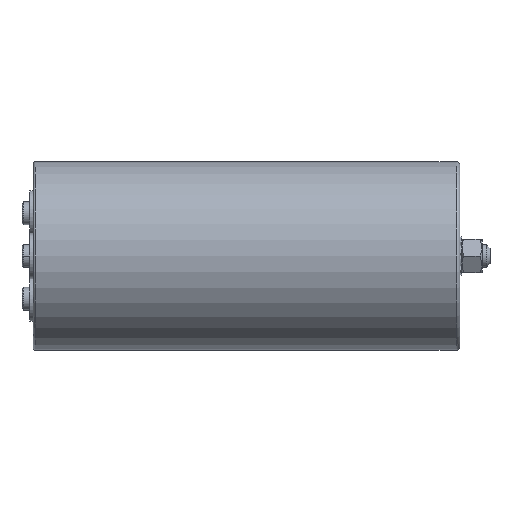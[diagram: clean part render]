
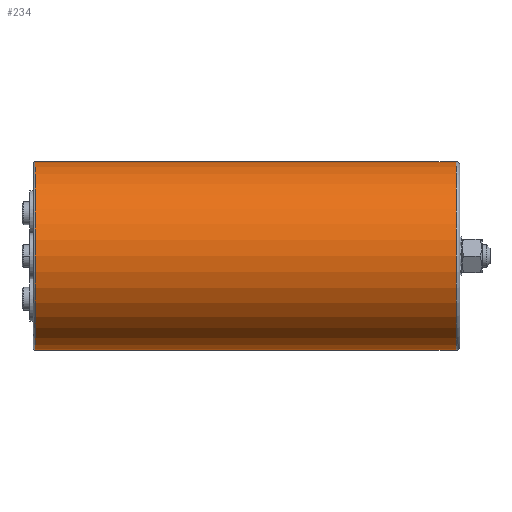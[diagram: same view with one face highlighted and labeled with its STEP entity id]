
A CAD part, left-side view. The second image highlights one B-rep face of the part: STEP entity #234.
In plain terms, the highlighted cylindrical face has radius 50 mm (diameter 100 mm), a partial arc.
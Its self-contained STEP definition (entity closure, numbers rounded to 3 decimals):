
#56 = VECTOR ( 'NONE', #4375, 1000. ) ;
#132 = CARTESIAN_POINT ( 'NONE',  ( 0., 2., -50. ) ) ;
#234 = ADVANCED_FACE ( 'NONE', ( #2030 ), #2420, .T. ) ;
#250 = LINE ( 'NONE', #3584, #2077 ) ;
#474 = ORIENTED_EDGE ( 'NONE', *, *, #908, .F. ) ;
#590 = ORIENTED_EDGE ( 'NONE', *, *, #2779, .T. ) ;
#676 = CIRCLE ( 'NONE', #4230, 50. ) ;
#908 = EDGE_CURVE ( 'NONE', #2908, #1460, #1408, .T. ) ;
#976 = CARTESIAN_POINT ( 'NONE',  ( 0., 0., 0. ) ) ;
#1030 = CIRCLE ( 'NONE', #2876, 50. ) ;
#1231 = DIRECTION ( 'NONE',  ( 0., 1., 0. ) ) ;
#1258 = EDGE_CURVE ( 'NONE', #2786, #1460, #1030, .T. ) ;
#1386 = DIRECTION ( 'NONE',  ( 0., -1., 0. ) ) ;
#1408 = LINE ( 'NONE', #2532, #56 ) ;
#1460 = VERTEX_POINT ( 'NONE', #3591 ) ;
#1672 = DIRECTION ( 'NONE',  ( 0., 0., -1. ) ) ;
#1702 = DIRECTION ( 'NONE',  ( 0., -1., 0. ) ) ;
#1947 = DIRECTION ( 'NONE',  ( 0., -1., 0. ) ) ;
#2030 = FACE_OUTER_BOUND ( 'NONE', #4631, .T. ) ;
#2077 = VECTOR ( 'NONE', #1702, 1000. ) ;
#2420 = CYLINDRICAL_SURFACE ( 'NONE', #3965, 50. ) ;
#2532 = CARTESIAN_POINT ( 'NONE',  ( 0., 0., 50. ) ) ;
#2779 = EDGE_CURVE ( 'NONE', #2908, #4420, #676, .T. ) ;
#2786 = VERTEX_POINT ( 'NONE', #132 ) ;
#2876 = AXIS2_PLACEMENT_3D ( 'NONE', #3811, #1231, #4580 ) ;
#2908 = VERTEX_POINT ( 'NONE', #4734 ) ;
#3060 = DIRECTION ( 'NONE',  ( 0., 0., 1. ) ) ;
#3125 = ORIENTED_EDGE ( 'NONE', *, *, #3925, .T. ) ;
#3305 = ORIENTED_EDGE ( 'NONE', *, *, #1258, .T. ) ;
#3584 = CARTESIAN_POINT ( 'NONE',  ( 0., 0., -50. ) ) ;
#3591 = CARTESIAN_POINT ( 'NONE',  ( 0., 2., 50. ) ) ;
#3811 = CARTESIAN_POINT ( 'NONE',  ( 0., 2., 0. ) ) ;
#3925 = EDGE_CURVE ( 'NONE', #4420, #2786, #250, .T. ) ;
#3965 = AXIS2_PLACEMENT_3D ( 'NONE', #976, #1386, #1672 ) ;
#4198 = CARTESIAN_POINT ( 'NONE',  ( 0., 225., 0. ) ) ;
#4230 = AXIS2_PLACEMENT_3D ( 'NONE', #4198, #1947, #3060 ) ;
#4375 = DIRECTION ( 'NONE',  ( 0., -1., 0. ) ) ;
#4420 = VERTEX_POINT ( 'NONE', #4713 ) ;
#4580 = DIRECTION ( 'NONE',  ( 0., 0., -1. ) ) ;
#4631 = EDGE_LOOP ( 'NONE', ( #474, #590, #3125, #3305 ) ) ;
#4713 = CARTESIAN_POINT ( 'NONE',  ( 0., 225., -50. ) ) ;
#4734 = CARTESIAN_POINT ( 'NONE',  ( 0., 225., 50. ) ) ;
